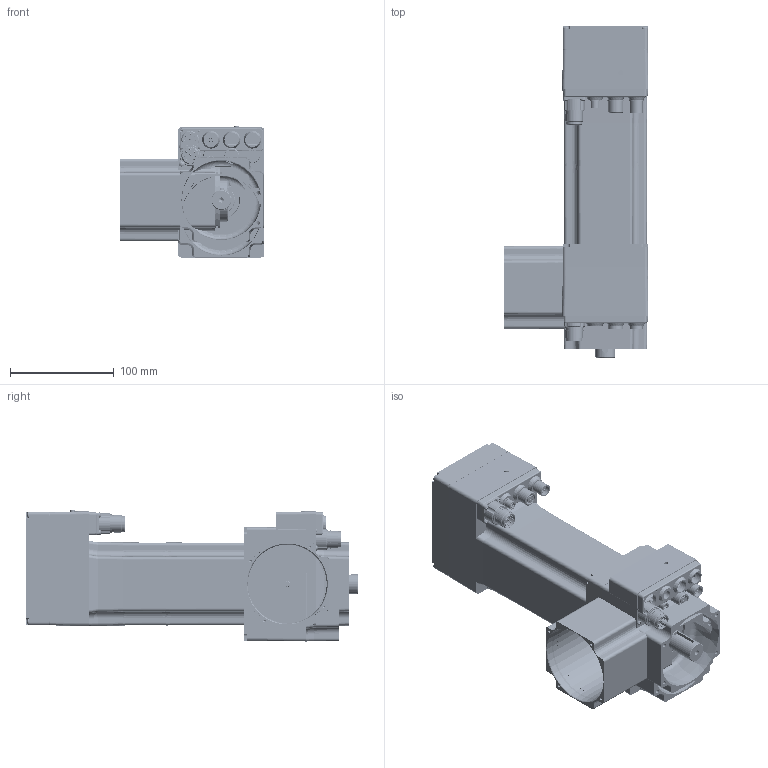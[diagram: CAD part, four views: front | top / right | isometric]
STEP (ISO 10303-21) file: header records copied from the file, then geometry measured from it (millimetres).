
FILE_DESCRIPTION( ( 'Unknown' ), '1' );
FILE_NAME( 'C:/Users/dotti/Desktop/Q0B223/Q0B223_2,8.stp', 'Unknown', ( 'Unknown' ), ( 'Unknown' ), 'PSStep 14.0', 'Unknown', ' ' );
FILE_SCHEMA( ( 'AUTOMOTIVE_DESIGN { 1 0 10303 214 1 1 1 1 }' ) );
Length unit declared in the file: millimetre
Products named in the file (52): T00273; Assem1; 005117000974; N54236; CN M23 PAN-POT BEGA 906 4+5p; VECST-8112 M  2,5 x 12; 005117000476; G00030; N33250; RVTS M3 d8 sp1; RVTS M3 d8 sp1-oa0; LI-PIA   6x6 x 30; N27221; LI-PIA   5x5 x 18; CUSC_20_42_12_6004_ZZ; CUSC_15_32_9_6002_ZZ; a-ela  20; Anello-elastico-chiuso  42; N09284; Anello-elastico-chiuso  32; Vite a brugola testa cil 8,8 -  M  3 x 25; Vite a brugola testa cil 8,8 -  M  3 x 25-oa1; Vite a brugola testa cil 8,8 -  M  3 x 25-oa2; Vite a brugola testa cil 8,8 -  M  3 x 25-oa3; Vite a brugola testa cil 8,8 -  M  3 x 40; Vite a brugola testa cil 8,8 -  M  3 x 40-oa4; Vite a brugola testa cil 8,8 -  M  3 x 40-oa5; Vite a brugola testa cil 8,8 -  M  3 x 40-oa6; Vite a brugola testa cil 8,8 -  M  3 x 40-oa7; Vite a brugola testa cil 8,8 -  M  3 x 40-oa8; Vite a brugola testa cil 8,8 -  M  3 x 40-oa9; Vite a brugola testa cil 8,8 -  M  3 x 40-oa10; N35217; VECST-8112 M  3 x 30; N01386; N54239; 003016000054
Bounding box: 139.5 x 319.64 x 126.21 mm (x, y, z)
Volume: 1334851.8 mm3; surface area: 647951.2 mm2
Topology: 116 solids, 120 shells, 7709 faces, 20777 edges, 13621 vertices
Faces by surface type: plane 4201, cylinder 2631, cone 306, bspline 283, torus 235, sphere 53
Full cylindrical faces by diameter (mm): 1 x39, 1.5 x42, 1.7 x30, 2 x4, 2.4 x24, 2.459 x64, 2.5 x17, 2.7 x12, 3 x29, 3.2 x4, 3.5 x48, 4 x5, 4.2 x2, 4.917 x2, 5 x11, 5.5 x24, 6 x36, 8 x21, 8.5 x9, 8.75 x3, 9 x6, 10 x3, 11 x15, 11.9 x6, 12 x9, 14 x8, 14.4 x3, 14.5 x3, 15 x4, 15.001 x2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
Entity records: 110408 total; most frequent: CARTESIAN_POINT 28025, DIRECTION 13997, ORIENTED_EDGE 13936, EDGE_CURVE 6968, AXIS2_PLACEMENT_3D 5066, VERTEX_POINT 4789, LINE 3865, VECTOR 3865
